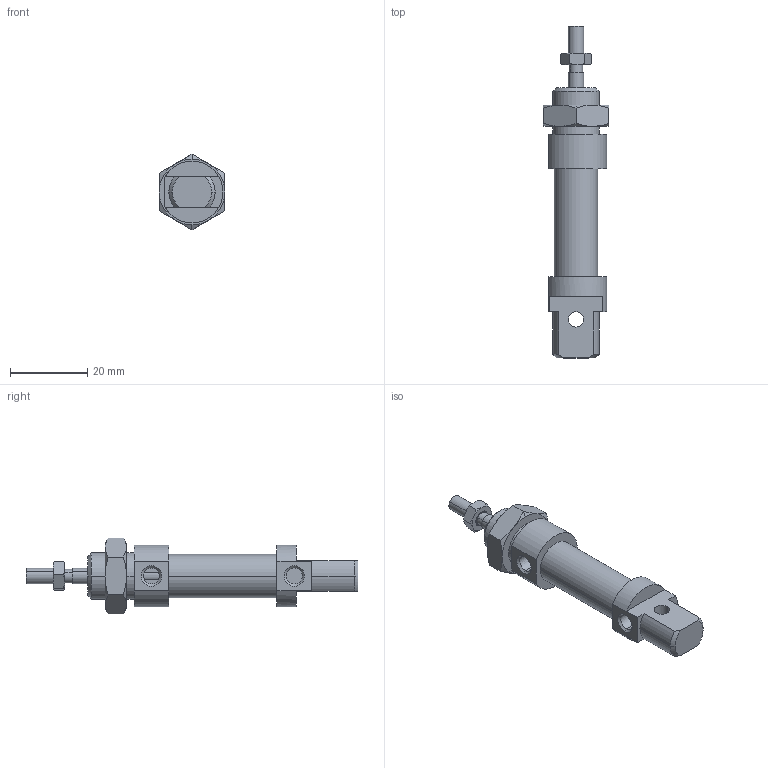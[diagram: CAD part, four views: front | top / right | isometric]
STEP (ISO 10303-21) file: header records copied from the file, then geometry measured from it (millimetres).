
FILE_DESCRIPTION((''),'2;1');
FILE_NAME('I:\DOC-EDP\Lib-3d\1200\CILINDRI\1280\1280_10_0000.stp','2003-04-07T14:44:56',('maffial1'),(''),'Autodesk Inventor (R) 6.0','Autodesk Inventor (R) 6.0','');
FILE_SCHEMA(('AUTOMOTIVE_DESIGN { 1 0 10303 214 1 1 1 1 }'));
Length unit declared in the file: millimetre
Products named in the file (5): 1280_10_0000; S1280_10_0; 1200_10_05; 1200_10_06; C1280_10_0
Assembly tree (4 placements, depth 2):
  1280_10_0000
    S1280_10_0
    1200_10_05
    1200_10_06
    C1280_10_0
Bounding box: 17 x 86 x 19.63 mm (x, y, z)
Volume: 9257.5 mm3; surface area: 5178.5 mm2
Topology: 4 solids, 4 shells, 117 faces, 261 edges, 158 vertices
Faces by surface type: cone 40, plane 34, cylinder 22, bspline 21
Entity records: 3582 total; most frequent: CARTESIAN_POINT 992, DIRECTION 531, ORIENTED_EDGE 522, EDGE_CURVE 261, AXIS2_PLACEMENT_3D 221, VERTEX_POINT 158, EDGE_LOOP 131, FACE_OUTER_BOUND 117
